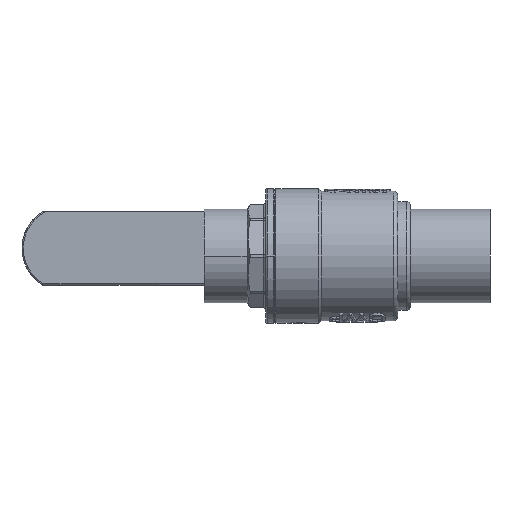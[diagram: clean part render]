
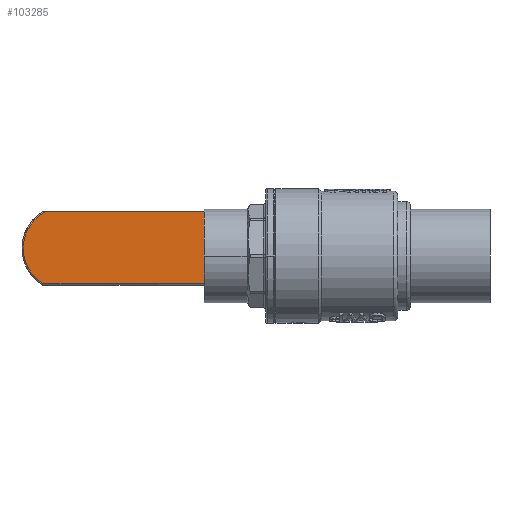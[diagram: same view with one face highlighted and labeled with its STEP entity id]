
A CAD part, front view. The second image highlights one B-rep face of the part: STEP entity #103285.
In plain terms, the highlighted planar face has unit normal (0, -1, 0).
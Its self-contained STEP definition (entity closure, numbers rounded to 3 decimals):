
#1179 = DIRECTION ( 'NONE',  ( 0., 0., 1. ) ) ;
#5572 = DIRECTION ( 'NONE',  ( -1., 0., 0. ) ) ;
#12174 = VECTOR ( 'NONE', #71341, 1000. ) ;
#14510 = DIRECTION ( 'NONE',  ( 1., 0., 0. ) ) ;
#15582 = CARTESIAN_POINT ( 'NONE',  ( 105., 20.5, 0. ) ) ;
#16678 = LINE ( 'NONE', #80289, #41597 ) ;
#17655 = PLANE ( 'NONE',  #28347 ) ;
#18870 = ORIENTED_EDGE ( 'NONE', *, *, #74913, .T. ) ;
#21209 = ORIENTED_EDGE ( 'NONE', *, *, #92639, .T. ) ;
#23575 = EDGE_CURVE ( 'NONE', #68371, #85230, #16678, .T. ) ;
#23742 = AXIS2_PLACEMENT_3D ( 'NONE', #15582, #51328, #59809 ) ;
#28347 = AXIS2_PLACEMENT_3D ( 'NONE', #76973, #34449, #1179 ) ;
#29934 = CARTESIAN_POINT ( 'NONE',  ( 50.456, 20.5, 12.65 ) ) ;
#34449 = DIRECTION ( 'NONE',  ( 0., 1., 0. ) ) ;
#40481 = CARTESIAN_POINT ( 'NONE',  ( 49.6, 20.5, -13.65 ) ) ;
#41597 = VECTOR ( 'NONE', #5572, 1000. ) ;
#46973 = CIRCLE ( 'NONE', #23742, 15.5 ) ;
#48154 = EDGE_CURVE ( 'NONE', #85230, #56640, #103953, .T. ) ;
#50969 = ORIENTED_EDGE ( 'NONE', *, *, #48154, .T. ) ;
#51328 = DIRECTION ( 'NONE',  ( 0., -1., 0. ) ) ;
#53480 = ORIENTED_EDGE ( 'NONE', *, *, #23575, .T. ) ;
#56640 = VERTEX_POINT ( 'NONE', #86584 ) ;
#59809 = DIRECTION ( 'NONE',  ( 0., 0., 1. ) ) ;
#62507 = VECTOR ( 'NONE', #14510, 1000. ) ;
#63541 = CARTESIAN_POINT ( 'NONE',  ( 113.205, 20.5, 13.15 ) ) ;
#68371 = VERTEX_POINT ( 'NONE', #63541 ) ;
#71341 = DIRECTION ( 'NONE',  ( 0., 0., -1. ) ) ;
#72395 = VERTEX_POINT ( 'NONE', #79240 ) ;
#74913 = EDGE_CURVE ( 'NONE', #72395, #68371, #46973, .T. ) ;
#76973 = CARTESIAN_POINT ( 'NONE',  ( 49.6, 20.5, 12.65 ) ) ;
#78127 = LINE ( 'NONE', #40481, #62507 ) ;
#79240 = CARTESIAN_POINT ( 'NONE',  ( 112.344, 20.5, -13.65 ) ) ;
#80289 = CARTESIAN_POINT ( 'NONE',  ( 50.456, 20.5, 13.15 ) ) ;
#84232 = EDGE_LOOP ( 'NONE', ( #21209, #18870, #53480, #50969 ) ) ;
#85230 = VERTEX_POINT ( 'NONE', #85512 ) ;
#85512 = CARTESIAN_POINT ( 'NONE',  ( 50.456, 20.5, 13.15 ) ) ;
#86584 = CARTESIAN_POINT ( 'NONE',  ( 50.456, 20.5, -13.65 ) ) ;
#92639 = EDGE_CURVE ( 'NONE', #56640, #72395, #78127, .T. ) ;
#101269 = FACE_OUTER_BOUND ( 'NONE', #84232, .T. ) ;
#103285 = ADVANCED_FACE ( 'NONE', ( #101269 ), #17655, .F. ) ;
#103953 = LINE ( 'NONE', #29934, #12174 ) ;
